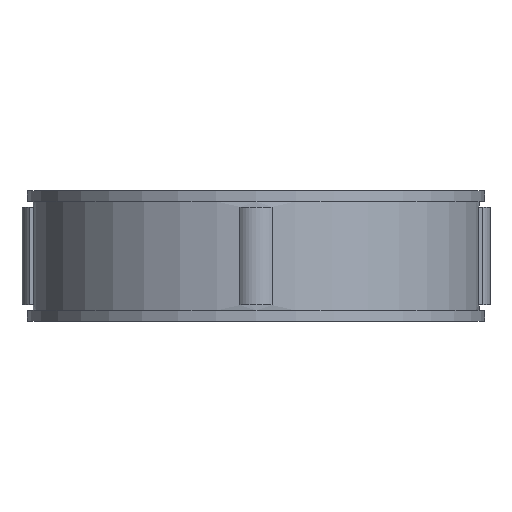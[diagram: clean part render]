
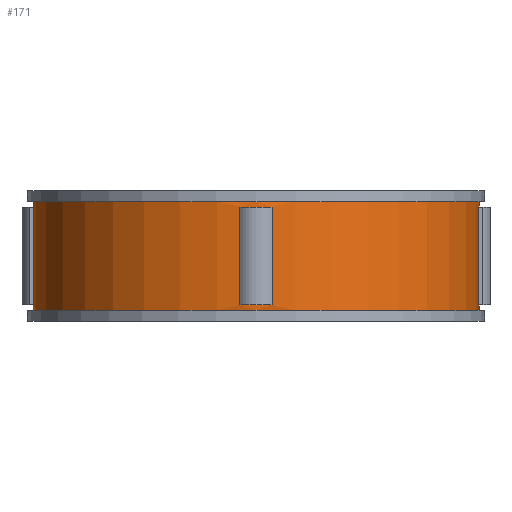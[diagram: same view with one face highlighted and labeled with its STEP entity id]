
A CAD part, front view. The second image highlights one B-rep face of the part: STEP entity #171.
In plain terms, the highlighted cylindrical face has radius 20.5 mm (diameter 41 mm), a full revolution.
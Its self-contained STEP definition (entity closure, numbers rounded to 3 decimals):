
#171=ADVANCED_FACE('',(#359,#360,#361,#362,#363,#364),#219,.T.);
#219=CYLINDRICAL_SURFACE('',#882,20.5);
#231=LINE('',#1207,#295);
#232=LINE('',#1212,#296);
#233=LINE('',#1215,#297);
#234=LINE('',#1220,#298);
#235=LINE('',#1223,#299);
#236=LINE('',#1228,#300);
#237=LINE('',#1234,#301);
#238=LINE('',#1238,#302);
#295=VECTOR('',#966,1.);
#296=VECTOR('',#969,1.);
#297=VECTOR('',#972,1.);
#298=VECTOR('',#975,1.);
#299=VECTOR('',#978,1.);
#300=VECTOR('',#981,1.);
#301=VECTOR('',#986,1.);
#302=VECTOR('',#989,1.);
#359=FACE_BOUND('',#383,.T.);
#360=FACE_BOUND('',#384,.T.);
#361=FACE_BOUND('',#385,.T.);
#362=FACE_BOUND('',#386,.T.);
#363=FACE_BOUND('',#387,.T.);
#364=FACE_BOUND('',#388,.T.);
#383=EDGE_LOOP('',(#447));
#384=EDGE_LOOP('',(#448));
#385=EDGE_LOOP('',(#449,#450,#451,#452));
#386=EDGE_LOOP('',(#453,#454,#455,#456));
#387=EDGE_LOOP('',(#457,#458,#459,#460));
#388=EDGE_LOOP('',(#461,#462,#463,#464));
#447=ORIENTED_EDGE('',*,*,#727,.F.);
#448=ORIENTED_EDGE('',*,*,#728,.T.);
#449=ORIENTED_EDGE('',*,*,#729,.F.);
#450=ORIENTED_EDGE('',*,*,#730,.T.);
#451=ORIENTED_EDGE('',*,*,#731,.F.);
#452=ORIENTED_EDGE('',*,*,#732,.F.);
#453=ORIENTED_EDGE('',*,*,#733,.F.);
#454=ORIENTED_EDGE('',*,*,#734,.T.);
#455=ORIENTED_EDGE('',*,*,#735,.F.);
#456=ORIENTED_EDGE('',*,*,#736,.F.);
#457=ORIENTED_EDGE('',*,*,#737,.F.);
#458=ORIENTED_EDGE('',*,*,#738,.T.);
#459=ORIENTED_EDGE('',*,*,#739,.F.);
#460=ORIENTED_EDGE('',*,*,#740,.F.);
#461=ORIENTED_EDGE('',*,*,#741,.F.);
#462=ORIENTED_EDGE('',*,*,#742,.T.);
#463=ORIENTED_EDGE('',*,*,#743,.T.);
#464=ORIENTED_EDGE('',*,*,#744,.T.);
#655=VERTEX_POINT('',#1204);
#656=VERTEX_POINT('',#1206);
#657=VERTEX_POINT('',#1208);
#658=VERTEX_POINT('',#1209);
#659=VERTEX_POINT('',#1211);
#660=VERTEX_POINT('',#1213);
#661=VERTEX_POINT('',#1216);
#662=VERTEX_POINT('',#1217);
#663=VERTEX_POINT('',#1219);
#664=VERTEX_POINT('',#1221);
#665=VERTEX_POINT('',#1224);
#666=VERTEX_POINT('',#1225);
#667=VERTEX_POINT('',#1227);
#668=VERTEX_POINT('',#1229);
#669=VERTEX_POINT('',#1232);
#670=VERTEX_POINT('',#1233);
#671=VERTEX_POINT('',#1235);
#672=VERTEX_POINT('',#1237);
#727=EDGE_CURVE('',#655,#655,#831,.T.);
#728=EDGE_CURVE('',#656,#656,#832,.T.);
#729=EDGE_CURVE('',#657,#658,#231,.T.);
#730=EDGE_CURVE('',#657,#659,#833,.T.);
#731=EDGE_CURVE('',#660,#659,#232,.T.);
#732=EDGE_CURVE('',#658,#660,#834,.T.);
#733=EDGE_CURVE('',#661,#662,#233,.T.);
#734=EDGE_CURVE('',#661,#663,#835,.T.);
#735=EDGE_CURVE('',#664,#663,#234,.T.);
#736=EDGE_CURVE('',#662,#664,#836,.T.);
#737=EDGE_CURVE('',#665,#666,#235,.T.);
#738=EDGE_CURVE('',#665,#667,#837,.T.);
#739=EDGE_CURVE('',#668,#667,#236,.T.);
#740=EDGE_CURVE('',#666,#668,#838,.T.);
#741=EDGE_CURVE('',#669,#670,#839,.T.);
#742=EDGE_CURVE('',#669,#671,#237,.T.);
#743=EDGE_CURVE('',#671,#672,#840,.T.);
#744=EDGE_CURVE('',#672,#670,#238,.T.);
#831=CIRCLE('',#872,20.5);
#832=CIRCLE('',#873,20.5);
#833=CIRCLE('',#874,20.5);
#834=CIRCLE('',#875,20.5);
#835=CIRCLE('',#876,20.5);
#836=CIRCLE('',#877,20.5);
#837=CIRCLE('',#878,20.5);
#838=CIRCLE('',#879,20.5);
#839=CIRCLE('',#880,20.5);
#840=CIRCLE('',#881,20.5);
#872=AXIS2_PLACEMENT_3D('',#1203,#962,#963);
#873=AXIS2_PLACEMENT_3D('',#1205,#964,#965);
#874=AXIS2_PLACEMENT_3D('',#1210,#967,#968);
#875=AXIS2_PLACEMENT_3D('',#1214,#970,#971);
#876=AXIS2_PLACEMENT_3D('',#1218,#973,#974);
#877=AXIS2_PLACEMENT_3D('',#1222,#976,#977);
#878=AXIS2_PLACEMENT_3D('',#1226,#979,#980);
#879=AXIS2_PLACEMENT_3D('',#1230,#982,#983);
#880=AXIS2_PLACEMENT_3D('',#1231,#984,#985);
#881=AXIS2_PLACEMENT_3D('',#1236,#987,#988);
#882=AXIS2_PLACEMENT_3D('',#1239,#990,#991);
#962=DIRECTION('',(0.,0.,1.));
#963=DIRECTION('',(1.,0.,0.));
#964=DIRECTION('',(0.,0.,1.));
#965=DIRECTION('',(1.,0.,0.));
#966=DIRECTION('',(0.,0.,-1.));
#967=DIRECTION('',(0.,0.,1.));
#968=DIRECTION('',(1.,0.,0.));
#969=DIRECTION('',(0.,0.,1.));
#970=DIRECTION('',(0.,0.,1.));
#971=DIRECTION('',(1.,0.,0.));
#972=DIRECTION('',(0.,0.,-1.));
#973=DIRECTION('',(0.,0.,1.));
#974=DIRECTION('',(1.,0.,0.));
#975=DIRECTION('',(0.,0.,1.));
#976=DIRECTION('',(0.,0.,1.));
#977=DIRECTION('',(1.,0.,0.));
#978=DIRECTION('',(0.,0.,-1.));
#979=DIRECTION('',(0.,0.,1.));
#980=DIRECTION('',(1.,0.,0.));
#981=DIRECTION('',(0.,0.,1.));
#982=DIRECTION('',(0.,0.,1.));
#983=DIRECTION('',(1.,0.,0.));
#984=DIRECTION('',(0.,0.,-1.));
#985=DIRECTION('',(-1.,0.,0.));
#986=DIRECTION('',(0.,0.,-1.));
#987=DIRECTION('',(0.,0.,-1.));
#988=DIRECTION('',(-1.,0.,0.));
#989=DIRECTION('',(0.,0.,1.));
#990=DIRECTION('',(0.,0.,-1.));
#991=DIRECTION('',(-1.,0.,0.));
#1203=CARTESIAN_POINT('',(0.,0.,11.));
#1204=CARTESIAN_POINT('',(20.5,0.,11.));
#1205=CARTESIAN_POINT('',(0.,0.,1.));
#1206=CARTESIAN_POINT('',(20.5,0.,1.));
#1207=CARTESIAN_POINT('',(20.447,-1.471,12.));
#1208=CARTESIAN_POINT('',(20.447,-1.471,10.5));
#1209=CARTESIAN_POINT('',(20.447,-1.471,1.5));
#1210=CARTESIAN_POINT('',(0.,0.,10.5));
#1211=CARTESIAN_POINT('',(20.447,1.471,10.5));
#1212=CARTESIAN_POINT('',(20.447,1.471,12.));
#1213=CARTESIAN_POINT('',(20.447,1.471,1.5));
#1214=CARTESIAN_POINT('',(0.,0.,1.5));
#1215=CARTESIAN_POINT('',(1.471,20.447,12.));
#1216=CARTESIAN_POINT('',(1.471,20.447,10.5));
#1217=CARTESIAN_POINT('',(1.471,20.447,1.5));
#1218=CARTESIAN_POINT('',(0.,0.,10.5));
#1219=CARTESIAN_POINT('',(-1.471,20.447,10.5));
#1220=CARTESIAN_POINT('',(-1.471,20.447,12.));
#1221=CARTESIAN_POINT('',(-1.471,20.447,1.5));
#1222=CARTESIAN_POINT('',(0.,0.,1.5));
#1223=CARTESIAN_POINT('',(-20.447,1.471,12.));
#1224=CARTESIAN_POINT('',(-20.447,1.471,10.5));
#1225=CARTESIAN_POINT('',(-20.447,1.471,1.5));
#1226=CARTESIAN_POINT('',(0.,0.,10.5));
#1227=CARTESIAN_POINT('',(-20.447,-1.471,10.5));
#1228=CARTESIAN_POINT('',(-20.447,-1.471,12.));
#1229=CARTESIAN_POINT('',(-20.447,-1.471,1.5));
#1230=CARTESIAN_POINT('',(0.,0.,1.5));
#1231=CARTESIAN_POINT('',(0.,0.,10.5));
#1232=CARTESIAN_POINT('',(1.471,-20.447,10.5));
#1233=CARTESIAN_POINT('',(-1.471,-20.447,10.5));
#1234=CARTESIAN_POINT('',(1.471,-20.447,12.));
#1235=CARTESIAN_POINT('',(1.471,-20.447,1.5));
#1236=CARTESIAN_POINT('',(0.,0.,1.5));
#1237=CARTESIAN_POINT('',(-1.471,-20.447,1.5));
#1238=CARTESIAN_POINT('',(-1.471,-20.447,12.));
#1239=CARTESIAN_POINT('',(0.,0.,12.));
